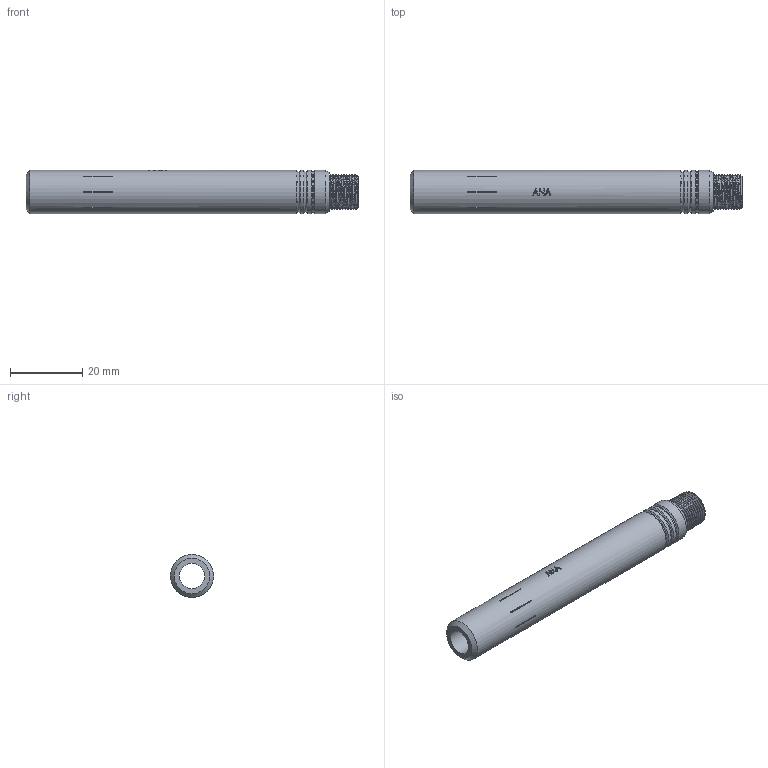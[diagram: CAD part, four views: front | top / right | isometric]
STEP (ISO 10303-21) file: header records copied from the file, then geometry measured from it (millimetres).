
FILE_DESCRIPTION(('Open CASCADE Model'),'2;1');
FILE_NAME('Open CASCADE Shape Model','2026-11-25T12:52:24',('Author'),( 'Open CASCADE'),'Open CASCADE STEP processor 8.0','Open CASCADE 8.0' ,'Unknown');
FILE_SCHEMA(('AP242_MANAGED_MODEL_BASED_3D_ENGINEERING_MIM_LF {1 0 10303 442 1 1 4 }' ));
Length unit declared in the file: millimetre
Products named in the file (1): Barrel
Bounding box: 92 x 12 x 12 mm (x, y, z)
Volume: 6430.3 mm3; surface area: 5711.4 mm2
Topology: 1 solids, 1 shells, 103 faces, 260 edges, 172 vertices
Faces by surface type: plane 67, cylinder 24, cone 9, bspline 3
Full cylindrical faces by diameter (mm): 7 x1, 9.7 x9, 11.2 x3, 12 x4
Entity records: 11734 total; most frequent: CARTESIAN_POINT 6728, DIRECTION 849, ORIENTED_EDGE 520, PCURVE 520, DEFINITIONAL_REPRESENTATION 520, LINE 410, VECTOR 410, EDGE_CURVE 260
